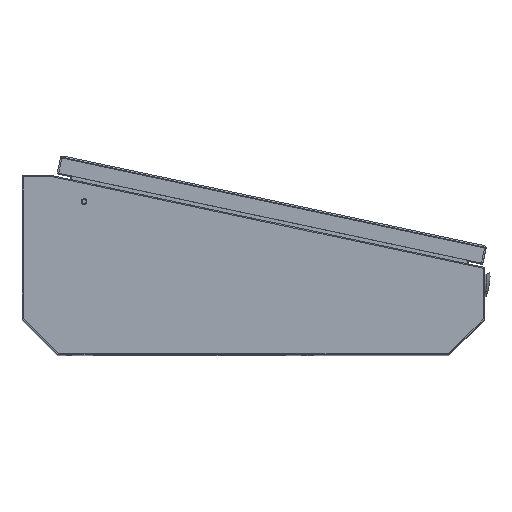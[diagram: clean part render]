
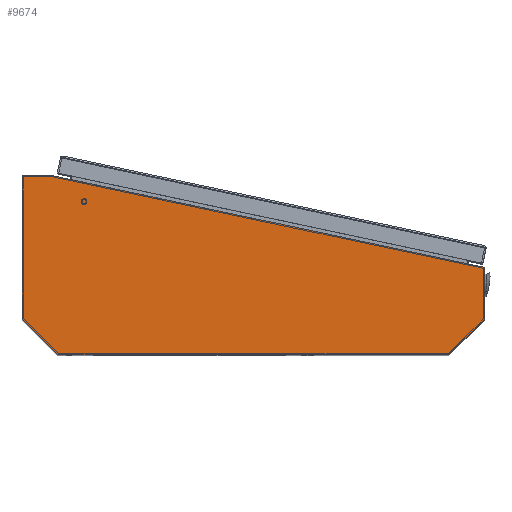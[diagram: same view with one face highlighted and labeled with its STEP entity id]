
A CAD part, top view. The second image highlights one B-rep face of the part: STEP entity #9674.
In plain terms, the highlighted planar face has unit normal (0, 0, 1).
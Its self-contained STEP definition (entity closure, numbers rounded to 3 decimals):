
#72 = VECTOR ( 'NONE', #1827, 1000. ) ;
#1149 = EDGE_CURVE ( 'NONE', #17288, #7044, #18249, .T. ) ;
#1336 = VERTEX_POINT ( 'NONE', #11906 ) ;
#1442 = CARTESIAN_POINT ( 'NONE',  ( 275.17, -126., 400. ) ) ;
#1827 = DIRECTION ( 'NONE',  ( -1., 0., 0. ) ) ;
#2165 = EDGE_CURVE ( 'NONE', #17288, #1336, #12268, .T. ) ;
#2345 = VERTEX_POINT ( 'NONE', #2744 ) ;
#2495 = VECTOR ( 'NONE', #16377, 1000. ) ;
#2744 = CARTESIAN_POINT ( 'NONE',  ( 275.17, -126., 400. ) ) ;
#3272 = LINE ( 'NONE', #1442, #10147 ) ;
#3387 = ORIENTED_EDGE ( 'NONE', *, *, #12564, .T. ) ;
#3389 = EDGE_LOOP ( 'NONE', ( #6309, #18657, #4762, #3387, #17859, #3962, #10202 ) ) ;
#3712 = PLANE ( 'NONE',  #7606 ) ;
#3962 = ORIENTED_EDGE ( 'NONE', *, *, #14693, .T. ) ;
#4237 = EDGE_CURVE ( 'NONE', #14910, #10350, #16923, .T. ) ;
#4762 = ORIENTED_EDGE ( 'NONE', *, *, #2165, .T. ) ;
#4996 = LINE ( 'NONE', #9179, #5949 ) ;
#5807 = CARTESIAN_POINT ( 'NONE',  ( -325.25, -126., 400. ) ) ;
#5812 = LINE ( 'NONE', #5807, #2495 ) ;
#5899 = FACE_OUTER_BOUND ( 'NONE', #3389, .T. ) ;
#5949 = VECTOR ( 'NONE', #18158, 1000. ) ;
#6189 = EDGE_CURVE ( 'NONE', #14098, #7044, #8915, .T. ) ;
#6309 = ORIENTED_EDGE ( 'NONE', *, *, #6189, .T. ) ;
#7044 = VERTEX_POINT ( 'NONE', #14944 ) ;
#7606 = AXIS2_PLACEMENT_3D ( 'NONE', #14237, #17424, #17229 ) ;
#7846 = CARTESIAN_POINT ( 'NONE',  ( 325.25, -126., 400. ) ) ;
#7958 = DIRECTION ( 'NONE',  ( 0., 1., 0. ) ) ;
#8101 = CARTESIAN_POINT ( 'NONE',  ( -325.25, -75.42, 400. ) ) ;
#8755 = CARTESIAN_POINT ( 'NONE',  ( 325.25, -75.92, 400. ) ) ;
#8915 = LINE ( 'NONE', #7846, #18560 ) ;
#9179 = CARTESIAN_POINT ( 'NONE',  ( -325.25, -126., 400. ) ) ;
#9674 = ADVANCED_FACE ( 'NONE', ( #5899 ), #3712, .F. ) ;
#9797 = DIRECTION ( 'NONE',  ( 0.978, -0.208, 0. ) ) ;
#9857 = VECTOR ( 'NONE', #10123, 1000. ) ;
#10123 = DIRECTION ( 'NONE',  ( -0.707, 0.707, 0. ) ) ;
#10147 = VECTOR ( 'NONE', #16477, 1000. ) ;
#10202 = ORIENTED_EDGE ( 'NONE', *, *, #15843, .F. ) ;
#10350 = VERTEX_POINT ( 'NONE', #14484 ) ;
#11906 = CARTESIAN_POINT ( 'NONE',  ( -325.25, 126., 400. ) ) ;
#12268 = LINE ( 'NONE', #15406, #72 ) ;
#12564 = EDGE_CURVE ( 'NONE', #1336, #10350, #5812, .T. ) ;
#12688 = CARTESIAN_POINT ( 'NONE',  ( 325.25, -2.788, 400. ) ) ;
#14073 = CARTESIAN_POINT ( 'NONE',  ( -274.67, -126., 400. ) ) ;
#14098 = VERTEX_POINT ( 'NONE', #8755 ) ;
#14237 = CARTESIAN_POINT ( 'NONE',  ( 0., 0., 400. ) ) ;
#14420 = VECTOR ( 'NONE', #9797, 1000. ) ;
#14484 = CARTESIAN_POINT ( 'NONE',  ( -325.25, -75.42, 400. ) ) ;
#14693 = EDGE_CURVE ( 'NONE', #14910, #2345, #4996, .T. ) ;
#14910 = VERTEX_POINT ( 'NONE', #14073 ) ;
#14944 = CARTESIAN_POINT ( 'NONE',  ( 325.25, -2.788, 400. ) ) ;
#15406 = CARTESIAN_POINT ( 'NONE',  ( -325.25, 126., 400. ) ) ;
#15843 = EDGE_CURVE ( 'NONE', #14098, #2345, #3272, .T. ) ;
#16377 = DIRECTION ( 'NONE',  ( 0., -1., 0. ) ) ;
#16477 = DIRECTION ( 'NONE',  ( -0.707, -0.707, 0. ) ) ;
#16923 = LINE ( 'NONE', #8101, #9857 ) ;
#17229 = DIRECTION ( 'NONE',  ( -1., 0., 0. ) ) ;
#17288 = VERTEX_POINT ( 'NONE', #17574 ) ;
#17424 = DIRECTION ( 'NONE',  ( 0., 0., -1. ) ) ;
#17574 = CARTESIAN_POINT ( 'NONE',  ( -280.65, 126., 400. ) ) ;
#17859 = ORIENTED_EDGE ( 'NONE', *, *, #4237, .F. ) ;
#18158 = DIRECTION ( 'NONE',  ( 1., 0., 0. ) ) ;
#18249 = LINE ( 'NONE', #12688, #14420 ) ;
#18560 = VECTOR ( 'NONE', #7958, 1000. ) ;
#18657 = ORIENTED_EDGE ( 'NONE', *, *, #1149, .F. ) ;
